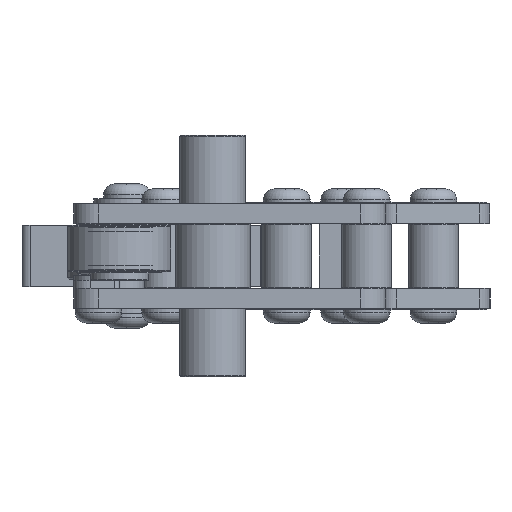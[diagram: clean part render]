
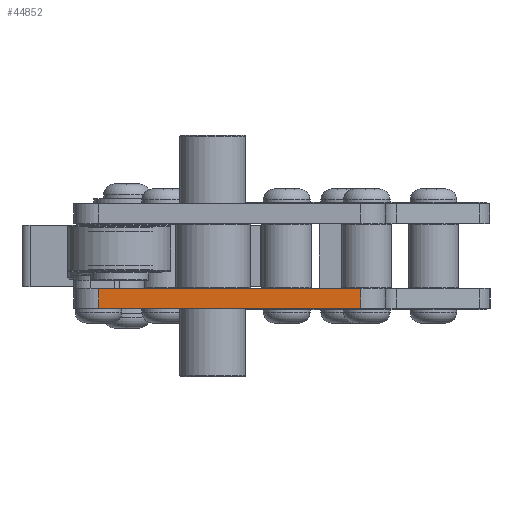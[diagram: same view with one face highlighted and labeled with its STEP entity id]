
A CAD part, left-side view. The second image highlights one B-rep face of the part: STEP entity #44852.
In plain terms, the highlighted planar face has unit normal (-1, 0, 0).
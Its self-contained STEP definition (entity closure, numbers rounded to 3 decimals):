
#4265=PLANE('',#47438);
#5774=LINE('',#58999,#10320);
#5915=LINE('',#59536,#10461);
#5916=LINE('',#59539,#10462);
#5917=LINE('',#59540,#10463);
#10320=VECTOR('',#49665,157.5);
#10461=VECTOR('',#50210,12.);
#10462=VECTOR('',#50213,12.);
#10463=VECTOR('',#50214,157.5);
#15447=FACE_OUTER_BOUND('',#17936,.T.);
#17936=EDGE_LOOP('',(#32273,#32274,#32275,#32276));
#21231=VERTEX_POINT('',#58996);
#21232=VERTEX_POINT('',#58998);
#21426=VERTEX_POINT('',#59534);
#21427=VERTEX_POINT('',#59538);
#25527=EDGE_CURVE('',#21232,#21231,#5774,.T.);
#25785=EDGE_CURVE('',#21232,#21426,#5915,.T.);
#25786=EDGE_CURVE('',#21427,#21231,#5916,.T.);
#25787=EDGE_CURVE('',#21426,#21427,#5917,.T.);
#32273=ORIENTED_EDGE('',*,*,#25785,.F.);
#32274=ORIENTED_EDGE('',*,*,#25527,.T.);
#32275=ORIENTED_EDGE('',*,*,#25786,.F.);
#32276=ORIENTED_EDGE('',*,*,#25787,.F.);
#44852=ADVANCED_FACE('',(#15447),#4265,.T.);
#47438=AXIS2_PLACEMENT_3D('',#59537,#50211,#50212);
#49665=DIRECTION('',(0.,-1.,0.));
#50210=DIRECTION('',(0.,0.,1.));
#50211=DIRECTION('center_axis',(-1.,0.,0.));
#50212=DIRECTION('ref_axis',(0.,-1.,0.));
#50213=DIRECTION('',(0.,0.,-1.));
#50214=DIRECTION('',(0.,-1.,0.));
#58996=CARTESIAN_POINT('',(0.,15.,0.));
#58998=CARTESIAN_POINT('',(0.,172.5,0.));
#58999=CARTESIAN_POINT('',(0.,187.5,0.));
#59534=CARTESIAN_POINT('',(0.,172.5,12.));
#59536=CARTESIAN_POINT('',(0.,172.5,0.));
#59537=CARTESIAN_POINT('Origin',(0.,187.5,0.));
#59538=CARTESIAN_POINT('',(0.,15.,12.));
#59539=CARTESIAN_POINT('',(0.,15.,0.));
#59540=CARTESIAN_POINT('',(0.,187.5,12.));
